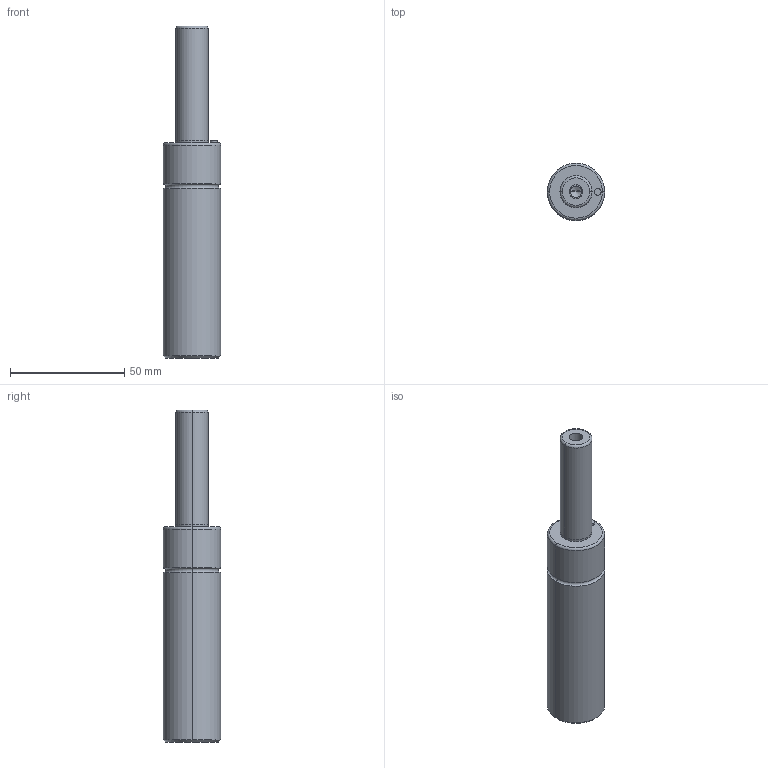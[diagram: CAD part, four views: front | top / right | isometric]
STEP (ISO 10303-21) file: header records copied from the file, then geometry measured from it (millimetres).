
FILE_DESCRIPTION(/* description */ (''),/* implementation_level */ '2;1');
FILE_NAME(/* name */ '3d_mgsa25-50_04551_r00.stp',/* time_stamp */ '2011-01-10T14:13:36+09:00',/* author */ ('MISUMI'),/* organization */ (''),/* preprocessor_version */ 'ST-DEVELOPER v11',/* originating_system */ 'UGS - NX 5.0',/* authorisation */ '');
FILE_SCHEMA (('CONFIG_CONTROL_DESIGN'));
Length unit declared in the file: millimetre
Products named in the file (1): 3d_mgsa25-50_04551_r00
Bounding box: 25 x 25 x 145 mm (x, y, z)
Volume: 53323.7 mm3; surface area: 10926.1 mm2
Topology: 1 solids, 1 shells, 36 faces, 74 edges, 42 vertices
Faces by surface type: cylinder 18, torus 6, cone 6, plane 6
Entity records: 1014 total; most frequent: DIRECTION 190, CARTESIAN_POINT 149, ORIENTED_EDGE 140, AXIS2_PLACEMENT_3D 83, EDGE_CURVE 70, CIRCLE 46, EDGE_LOOP 42, VERTEX_POINT 42
